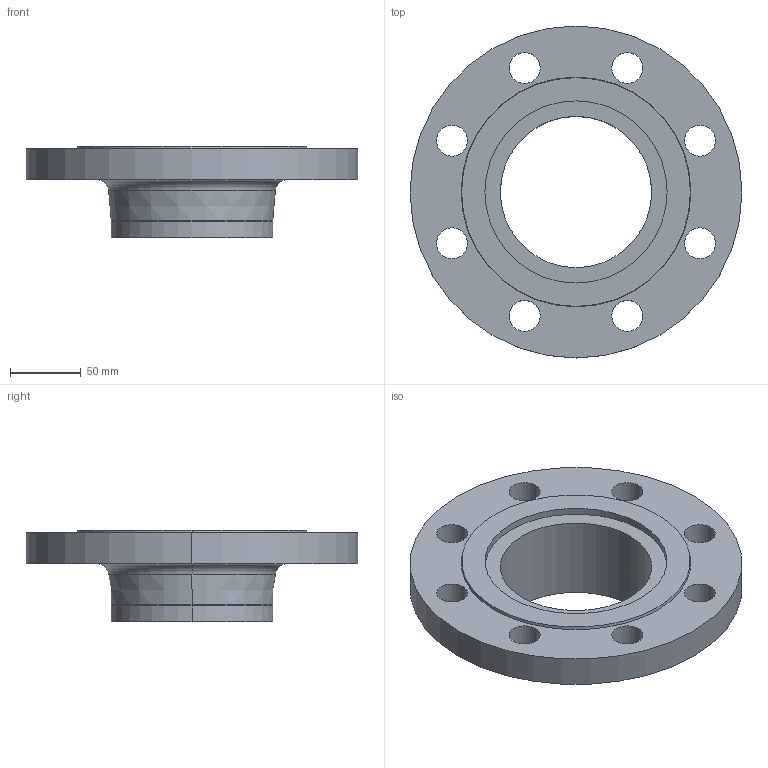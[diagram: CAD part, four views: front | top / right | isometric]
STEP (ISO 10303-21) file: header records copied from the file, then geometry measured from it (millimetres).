
FILE_DESCRIPTION (( 'STEP AP214' ), '1' );
FILE_NAME ('PN40 DN100 Type 11 - Type G Face.STEP', '2019-01-02T00:22:42', ( '' ), ( '' ), 'SwSTEP 2.0', 'SolidWorks 2019', '' );
FILE_SCHEMA (( 'AUTOMOTIVE_DESIGN' ));
Length unit declared in the file: millimetre
Products named in the file (1): PN40 DN100 Type 11 - Type G Face
Bounding box: 235 x 235 x 65 mm (x, y, z)
Volume: 761229.3 mm3; surface area: 127170.6 mm2
Topology: 1 solids, 1 shells, 37 faces, 90 edges, 58 vertices
Faces by surface type: cylinder 24, plane 5, torus 4, cone 4
Entity records: 1188 total; most frequent: DIRECTION 228, CARTESIAN_POINT 186, ORIENTED_EDGE 180, AXIS2_PLACEMENT_3D 100, EDGE_CURVE 90, CIRCLE 62, VERTEX_POINT 58, EDGE_LOOP 58
